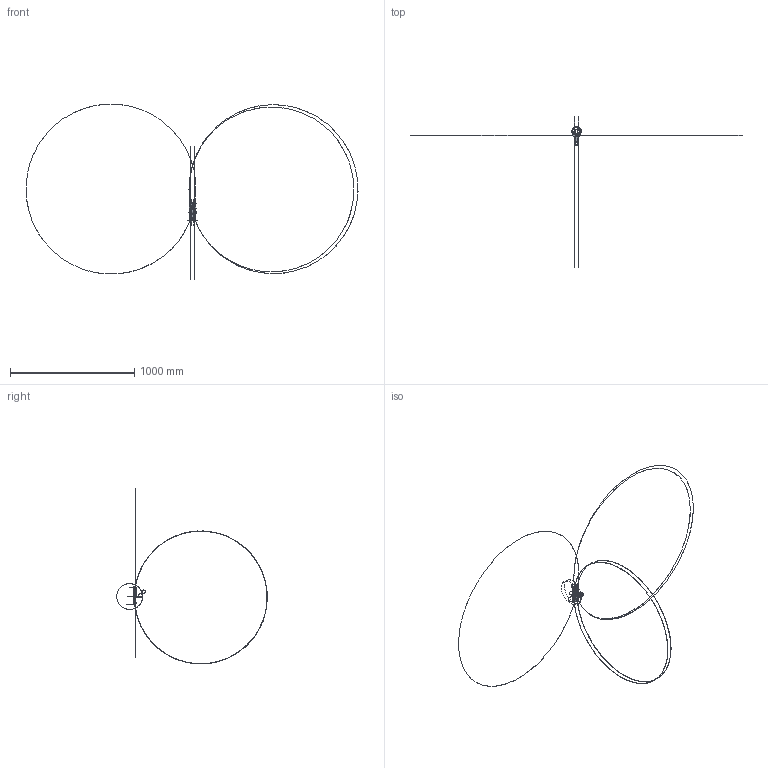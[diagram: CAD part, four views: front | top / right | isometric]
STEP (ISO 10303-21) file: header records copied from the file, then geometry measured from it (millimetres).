
FILE_DESCRIPTION((''),'2;1');
FILE_NAME('1','2014-06-04T',('tony'),(''),'PRO/ENGINEER BY PARAMETRIC TECHNOLOGY CORPORATION, 2008090','PRO/ENGINEER BY PARAMETRIC TECHNOLOGY CORPORATION, 2008090','');
FILE_SCHEMA(('CONFIG_CONTROL_DESIGN'));
Products named in the file (1): 1
Bounding box: 2674.13 x 1214.17 x 1417.43 mm (x, y, z)
Surface area: 181593.9 mm2 (no closed solid volume)
Topology: 0 solids, 0 shells, 2422 faces, 13730 edges, 13610 vertices
Faces by surface type: bspline 2279, torus 125, sphere 18
Entity records: 205803 total; most frequent: CARTESIAN_POINT 86331, DIRECTION 18404, TRIMMED_CURVE 16356, VECTOR 14594, LINE 14594, DEFINITIONAL_REPRESENTATION 13508, PCURVE 13508, COMPOSITE_CURVE_SEGMENT 13508
